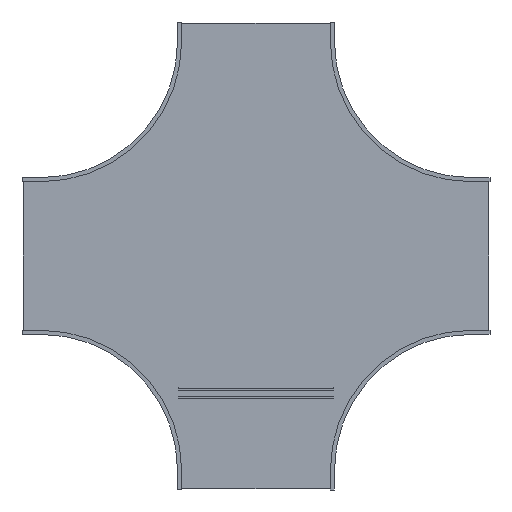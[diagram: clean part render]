
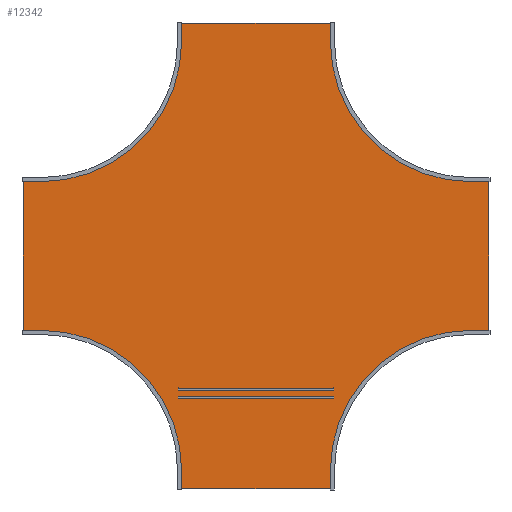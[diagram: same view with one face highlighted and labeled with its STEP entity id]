
A CAD part, front view. The second image highlights one B-rep face of the part: STEP entity #12342.
In plain terms, the highlighted planar face has unit normal (0, -1, 0).
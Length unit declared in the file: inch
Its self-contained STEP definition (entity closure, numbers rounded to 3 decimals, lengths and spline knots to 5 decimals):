
#12039=DIRECTION('',(0.,0.,1.));
#12040=VECTOR('',#12039,23.875);
#12041=CARTESIAN_POINT('',(-35.875,0.,-11.9375));
#12042=LINE('',#12041,#12040);
#12043=DIRECTION('',(1.,0.,0.));
#12044=VECTOR('',#12043,2.785);
#12045=CARTESIAN_POINT('',(-35.875,0.,11.9375));
#12046=LINE('',#12045,#12044);
#12047=CARTESIAN_POINT('',(-33.09,0.,33.09));
#12048=DIRECTION('',(0.,-1.,0.));
#12049=DIRECTION('',(0.,0.,-1.));
#12050=AXIS2_PLACEMENT_3D('',#12047,#12048,#12049);
#12052=DIRECTION('',(0.,0.,1.));
#12053=VECTOR('',#12052,2.785);
#12054=CARTESIAN_POINT('',(-11.9375,0.,33.09));
#12055=LINE('',#12054,#12053);
#12056=DIRECTION('',(1.,0.,0.));
#12057=VECTOR('',#12056,23.875);
#12058=CARTESIAN_POINT('',(-11.9375,0.,35.875));
#12059=LINE('',#12058,#12057);
#12060=DIRECTION('',(0.,0.,-1.));
#12061=VECTOR('',#12060,2.785);
#12062=CARTESIAN_POINT('',(11.9375,0.,35.875));
#12063=LINE('',#12062,#12061);
#12064=CARTESIAN_POINT('',(33.09,0.,33.09));
#12065=DIRECTION('',(0.,-1.,0.));
#12066=DIRECTION('',(-1.,0.,0.));
#12067=AXIS2_PLACEMENT_3D('',#12064,#12065,#12066);
#12069=DIRECTION('',(1.,0.,0.));
#12070=VECTOR('',#12069,2.785);
#12071=CARTESIAN_POINT('',(33.09,0.,11.9375));
#12072=LINE('',#12071,#12070);
#12073=DIRECTION('',(0.,0.,-1.));
#12074=VECTOR('',#12073,23.875);
#12075=CARTESIAN_POINT('',(35.875,0.,11.9375));
#12076=LINE('',#12075,#12074);
#12077=DIRECTION('',(-1.,0.,0.));
#12078=VECTOR('',#12077,2.785);
#12079=CARTESIAN_POINT('',(35.875,0.,-11.9375));
#12080=LINE('',#12079,#12078);
#12081=CARTESIAN_POINT('',(33.09,0.,-33.09));
#12082=DIRECTION('',(0.,-1.,0.));
#12083=DIRECTION('',(0.,0.,1.));
#12084=AXIS2_PLACEMENT_3D('',#12081,#12082,#12083);
#12086=DIRECTION('',(0.,0.,-1.));
#12087=VECTOR('',#12086,2.785);
#12088=CARTESIAN_POINT('',(11.9375,0.,-33.09));
#12089=LINE('',#12088,#12087);
#12090=DIRECTION('',(-1.,0.,0.));
#12091=VECTOR('',#12090,23.875);
#12092=CARTESIAN_POINT('',(11.9375,0.,-35.875));
#12093=LINE('',#12092,#12091);
#12094=DIRECTION('',(0.,0.,1.));
#12095=VECTOR('',#12094,2.785);
#12096=CARTESIAN_POINT('',(-11.9375,0.,-35.875));
#12097=LINE('',#12096,#12095);
#12098=CARTESIAN_POINT('',(-33.09,0.,-33.09));
#12099=DIRECTION('',(0.,-1.,0.));
#12100=DIRECTION('',(1.,0.,0.));
#12101=AXIS2_PLACEMENT_3D('',#12098,#12099,#12100);
#12103=DIRECTION('',(-1.,0.,0.));
#12104=VECTOR('',#12103,2.785);
#12105=CARTESIAN_POINT('',(-33.09,0.,-11.9375));
#12106=LINE('',#12105,#12104);
#12239=CARTESIAN_POINT('',(-35.875,0.,-11.9375));
#12240=CARTESIAN_POINT('',(-35.875,0.,11.9375));
#12241=VERTEX_POINT('',#12239);
#12242=VERTEX_POINT('',#12240);
#12243=CARTESIAN_POINT('',(-33.09,0.,11.9375));
#12244=VERTEX_POINT('',#12243);
#12245=CARTESIAN_POINT('',(-11.9375,0.,33.09));
#12246=VERTEX_POINT('',#12245);
#12247=CARTESIAN_POINT('',(-11.9375,0.,35.875));
#12248=VERTEX_POINT('',#12247);
#12249=CARTESIAN_POINT('',(11.9375,0.,35.875));
#12250=VERTEX_POINT('',#12249);
#12251=CARTESIAN_POINT('',(11.9375,0.,33.09));
#12252=VERTEX_POINT('',#12251);
#12253=CARTESIAN_POINT('',(33.09,0.,11.9375));
#12254=VERTEX_POINT('',#12253);
#12255=CARTESIAN_POINT('',(35.875,0.,11.9375));
#12256=VERTEX_POINT('',#12255);
#12257=CARTESIAN_POINT('',(35.875,0.,-11.9375));
#12258=VERTEX_POINT('',#12257);
#12259=CARTESIAN_POINT('',(33.09,0.,-11.9375));
#12260=VERTEX_POINT('',#12259);
#12261=CARTESIAN_POINT('',(11.9375,0.,-33.09));
#12262=VERTEX_POINT('',#12261);
#12263=CARTESIAN_POINT('',(11.9375,0.,-35.875));
#12264=VERTEX_POINT('',#12263);
#12265=CARTESIAN_POINT('',(-11.9375,0.,-35.875));
#12266=VERTEX_POINT('',#12265);
#12267=CARTESIAN_POINT('',(-11.9375,0.,-33.09));
#12268=VERTEX_POINT('',#12267);
#12269=CARTESIAN_POINT('',(-33.09,0.,-11.9375));
#12270=VERTEX_POINT('',#12269);
#12303=CARTESIAN_POINT('',(0.,0.,0.));
#12304=DIRECTION('',(0.,1.,0.));
#12305=DIRECTION('',(1.,0.,0.));
#12306=AXIS2_PLACEMENT_3D('',#12303,#12304,#12305);
#12307=PLANE('',#12306);
#12309=ORIENTED_EDGE('',*,*,#12308,.T.);
#12311=ORIENTED_EDGE('',*,*,#12310,.T.);
#12313=ORIENTED_EDGE('',*,*,#12312,.T.);
#12315=ORIENTED_EDGE('',*,*,#12314,.T.);
#12317=ORIENTED_EDGE('',*,*,#12316,.T.);
#12319=ORIENTED_EDGE('',*,*,#12318,.T.);
#12321=ORIENTED_EDGE('',*,*,#12320,.T.);
#12323=ORIENTED_EDGE('',*,*,#12322,.T.);
#12325=ORIENTED_EDGE('',*,*,#12324,.T.);
#12327=ORIENTED_EDGE('',*,*,#12326,.T.);
#12329=ORIENTED_EDGE('',*,*,#12328,.T.);
#12331=ORIENTED_EDGE('',*,*,#12330,.T.);
#12333=ORIENTED_EDGE('',*,*,#12332,.T.);
#12335=ORIENTED_EDGE('',*,*,#12334,.T.);
#12337=ORIENTED_EDGE('',*,*,#12336,.T.);
#12339=ORIENTED_EDGE('',*,*,#12338,.T.);
#12340=EDGE_LOOP('',(#12309,#12311,#12313,#12315,#12317,#12319,#12321,#12323,
#12325,#12327,#12329,#12331,#12333,#12335,#12337,#12339));
#12341=FACE_OUTER_BOUND('',#12340,.F.);
#12342=ADVANCED_FACE('',(#12341),#12307,.F.);
#12051=CIRCLE('',#12050,21.1525);
#12068=CIRCLE('',#12067,21.1525);
#12085=CIRCLE('',#12084,21.1525);
#12102=CIRCLE('',#12101,21.1525);
#12308=EDGE_CURVE('',#12241,#12242,#12042,.T.);
#12310=EDGE_CURVE('',#12242,#12244,#12046,.T.);
#12312=EDGE_CURVE('',#12244,#12246,#12051,.T.);
#12314=EDGE_CURVE('',#12246,#12248,#12055,.T.);
#12316=EDGE_CURVE('',#12248,#12250,#12059,.T.);
#12318=EDGE_CURVE('',#12250,#12252,#12063,.T.);
#12320=EDGE_CURVE('',#12252,#12254,#12068,.T.);
#12322=EDGE_CURVE('',#12254,#12256,#12072,.T.);
#12324=EDGE_CURVE('',#12256,#12258,#12076,.T.);
#12326=EDGE_CURVE('',#12258,#12260,#12080,.T.);
#12328=EDGE_CURVE('',#12260,#12262,#12085,.T.);
#12330=EDGE_CURVE('',#12262,#12264,#12089,.T.);
#12332=EDGE_CURVE('',#12264,#12266,#12093,.T.);
#12334=EDGE_CURVE('',#12266,#12268,#12097,.T.);
#12336=EDGE_CURVE('',#12268,#12270,#12102,.T.);
#12338=EDGE_CURVE('',#12270,#12241,#12106,.T.);
